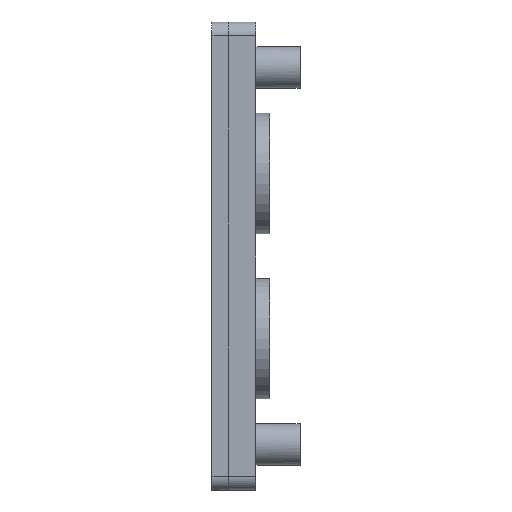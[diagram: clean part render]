
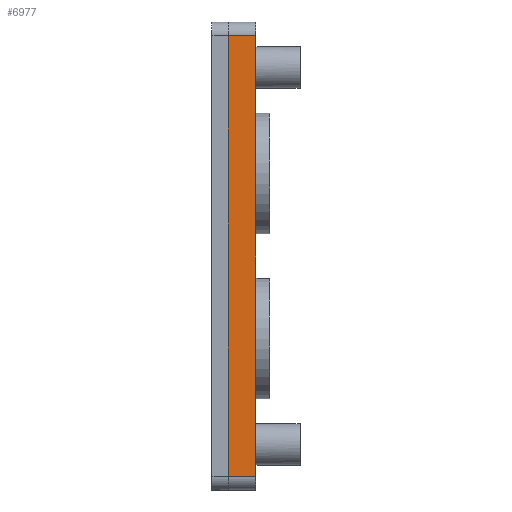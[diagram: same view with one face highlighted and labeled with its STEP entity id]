
A CAD part, left-side view. The second image highlights one B-rep face of the part: STEP entity #6977.
In plain terms, the highlighted planar face has unit normal (-1, 0, 0).
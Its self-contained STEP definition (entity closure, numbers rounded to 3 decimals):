
#168 = VERTEX_POINT ( 'NONE', #6480 ) ;
#415 = EDGE_CURVE ( 'NONE', #168, #18020, #13727, .T. ) ;
#429 = VECTOR ( 'NONE', #3610, 1000. ) ;
#771 = EDGE_CURVE ( 'NONE', #10233, #10065, #5144, .T. ) ;
#1159 = CARTESIAN_POINT ( 'NONE',  ( -21.5, 1.998, -6.006 ) ) ;
#1569 = LINE ( 'NONE', #4301, #4035 ) ;
#1750 = CARTESIAN_POINT ( 'NONE',  ( -21.5, 1.998, 5.718 ) ) ;
#1983 = ORIENTED_EDGE ( 'NONE', *, *, #771, .F. ) ;
#2296 = ORIENTED_EDGE ( 'NONE', *, *, #17729, .T. ) ;
#2467 = DIRECTION ( 'NONE',  ( 0., 0., 1. ) ) ;
#2884 = CARTESIAN_POINT ( 'NONE',  ( -21.5, 1., -16. ) ) ;
#3017 = DIRECTION ( 'NONE',  ( 1., 0., 0. ) ) ;
#3151 = VERTEX_POINT ( 'NONE', #7798 ) ;
#3194 = CARTESIAN_POINT ( 'NONE',  ( -21.5, 2., -6.835 ) ) ;
#3610 = DIRECTION ( 'NONE',  ( 0., -1., 0. ) ) ;
#3660 = VERTEX_POINT ( 'NONE', #15413 ) ;
#3848 = B_SPLINE_CURVE_WITH_KNOTS ( 'NONE', 3,
 ( #18005, #13641, #5520, #1159, #6783, #16456, #12274 ),
 .UNSPECIFIED., .F., .F.,
 ( 4, 3, 4 ),
 ( 0., 0.001, 0.002 ),
 .UNSPECIFIED. ) ;
#4012 = CARTESIAN_POINT ( 'NONE',  ( -21.5, 0., 16. ) ) ;
#4035 = VECTOR ( 'NONE', #11226, 1000. ) ;
#4301 = CARTESIAN_POINT ( 'NONE',  ( -21.5, 2., -16. ) ) ;
#4392 = CARTESIAN_POINT ( 'NONE',  ( -21.5, 1.998, 6.27 ) ) ;
#4700 = ORIENTED_EDGE ( 'NONE', *, *, #5872, .T. ) ;
#5144 = LINE ( 'NONE', #15986, #429 ) ;
#5520 = CARTESIAN_POINT ( 'NONE',  ( -21.5, 1.998, -5.73 ) ) ;
#5841 = CARTESIAN_POINT ( 'NONE',  ( -21.5, 2., 5.442 ) ) ;
#5872 = EDGE_CURVE ( 'NONE', #18020, #10065, #8198, .T. ) ;
#5892 = LINE ( 'NONE', #11464, #11065 ) ;
#5932 = CARTESIAN_POINT ( 'NONE',  ( -21.5, 2., 5.165 ) ) ;
#6013 = DIRECTION ( 'NONE',  ( 0., 0., -1. ) ) ;
#6145 = CARTESIAN_POINT ( 'NONE',  ( -21.5, 2., -16. ) ) ;
#6179 = ORIENTED_EDGE ( 'NONE', *, *, #15561, .F. ) ;
#6480 = CARTESIAN_POINT ( 'NONE',  ( -21.5, 2., -16. ) ) ;
#6783 = CARTESIAN_POINT ( 'NONE',  ( -21.5, 1.998, -6.282 ) ) ;
#6977 = ADVANCED_FACE ( 'NONE', ( #15770 ), #11403, .F. ) ;
#7121 = VERTEX_POINT ( 'NONE', #12668 ) ;
#7265 = ORIENTED_EDGE ( 'NONE', *, *, #415, .T. ) ;
#7788 = VECTOR ( 'NONE', #2467, 1000. ) ;
#7798 = CARTESIAN_POINT ( 'NONE',  ( -21.5, 2., -5.177 ) ) ;
#7975 = EDGE_CURVE ( 'NONE', #168, #12529, #14357, .T. ) ;
#8198 = LINE ( 'NONE', #4012, #7788 ) ;
#8972 = ORIENTED_EDGE ( 'NONE', *, *, #10440, .T. ) ;
#9726 = CARTESIAN_POINT ( 'NONE',  ( -21.5, 2., 16. ) ) ;
#10025 = CARTESIAN_POINT ( 'NONE',  ( -21.5, 1., 16. ) ) ;
#10065 = VERTEX_POINT ( 'NONE', #16387 ) ;
#10125 = AXIS2_PLACEMENT_3D ( 'NONE', #10025, #3017, #6013 ) ;
#10233 = VERTEX_POINT ( 'NONE', #9726 ) ;
#10274 = ORIENTED_EDGE ( 'NONE', *, *, #11246, .F. ) ;
#10440 = EDGE_CURVE ( 'NONE', #7121, #3660, #17496, .T. ) ;
#11065 = VECTOR ( 'NONE', #11554, 1000. ) ;
#11226 = DIRECTION ( 'NONE',  ( 0., 0., 1. ) ) ;
#11246 = EDGE_CURVE ( 'NONE', #3151, #3660, #1569, .T. ) ;
#11403 = PLANE ( 'NONE',  #10125 ) ;
#11464 = CARTESIAN_POINT ( 'NONE',  ( -21.5, 2., -16. ) ) ;
#11554 = DIRECTION ( 'NONE',  ( 0., 0., 1. ) ) ;
#12274 = CARTESIAN_POINT ( 'NONE',  ( -21.5, 2., -6.835 ) ) ;
#12529 = VERTEX_POINT ( 'NONE', #3194 ) ;
#12668 = CARTESIAN_POINT ( 'NONE',  ( -21.5, 2., 6.823 ) ) ;
#12741 = VECTOR ( 'NONE', #15812, 1000. ) ;
#12772 = CARTESIAN_POINT ( 'NONE',  ( -21.5, 1.998, 5.994 ) ) ;
#13641 = CARTESIAN_POINT ( 'NONE',  ( -21.5, 2., -5.453 ) ) ;
#13727 = LINE ( 'NONE', #2884, #14389 ) ;
#13994 = DIRECTION ( 'NONE',  ( 0., -1., 0. ) ) ;
#14325 = CARTESIAN_POINT ( 'NONE',  ( -21.5, 2., 6.823 ) ) ;
#14357 = LINE ( 'NONE', #6145, #12741 ) ;
#14389 = VECTOR ( 'NONE', #13994, 1000. ) ;
#14422 = EDGE_LOOP ( 'NONE', ( #6179, #8972, #10274, #2296, #16626, #7265, #4700, #1983 ) ) ;
#15413 = CARTESIAN_POINT ( 'NONE',  ( -21.5, 2., 5.165 ) ) ;
#15504 = CARTESIAN_POINT ( 'NONE',  ( -21.5, 2., 6.547 ) ) ;
#15561 = EDGE_CURVE ( 'NONE', #7121, #10233, #5892, .T. ) ;
#15770 = FACE_OUTER_BOUND ( 'NONE', #14422, .T. ) ;
#15812 = DIRECTION ( 'NONE',  ( 0., 0., 1. ) ) ;
#15986 = CARTESIAN_POINT ( 'NONE',  ( -21.5, 1., 16. ) ) ;
#16387 = CARTESIAN_POINT ( 'NONE',  ( -21.5, 0., 16. ) ) ;
#16456 = CARTESIAN_POINT ( 'NONE',  ( -21.5, 2., -6.558 ) ) ;
#16626 = ORIENTED_EDGE ( 'NONE', *, *, #7975, .F. ) ;
#16979 = CARTESIAN_POINT ( 'NONE',  ( -21.5, 0., -16. ) ) ;
#17496 = B_SPLINE_CURVE_WITH_KNOTS ( 'NONE', 3,
 ( #14325, #15504, #4392, #12772, #1750, #5841, #5932 ),
 .UNSPECIFIED., .F., .F.,
 ( 4, 3, 4 ),
 ( 0., 0.001, 0.002 ),
 .UNSPECIFIED. ) ;
#17729 = EDGE_CURVE ( 'NONE', #3151, #12529, #3848, .T. ) ;
#18005 = CARTESIAN_POINT ( 'NONE',  ( -21.5, 2., -5.177 ) ) ;
#18020 = VERTEX_POINT ( 'NONE', #16979 ) ;
